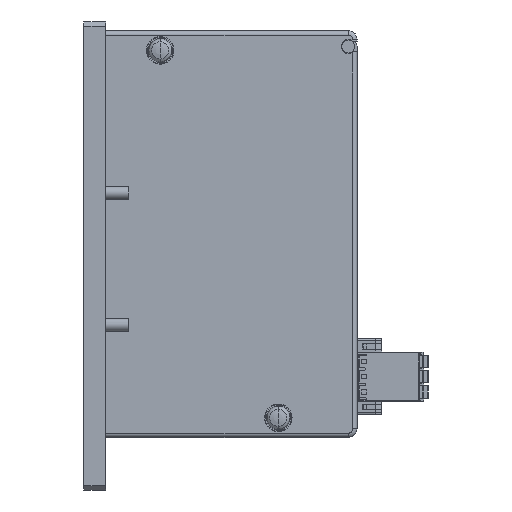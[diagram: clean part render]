
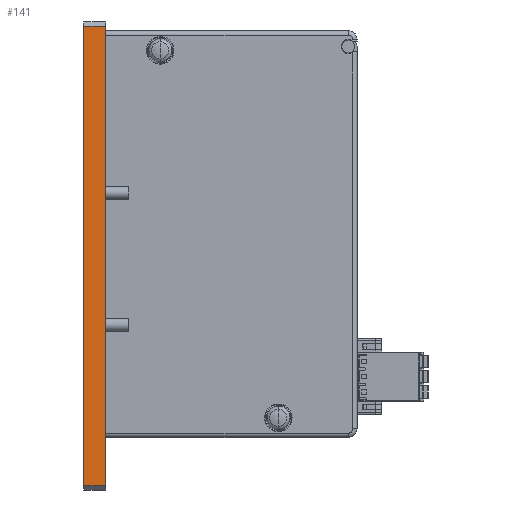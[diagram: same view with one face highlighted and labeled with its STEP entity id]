
A CAD part, left-side view. The second image highlights one B-rep face of the part: STEP entity #141.
In plain terms, the highlighted planar face has unit normal (-1, 0, 0) as drawn and (1, 0, 0) by its records, which use the part's own axes.
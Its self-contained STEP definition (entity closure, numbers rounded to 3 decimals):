
#141=ADVANCED_FACE('',(#1109),#1108,.F.);
#1108=PLANE('',#8866);
#1109=FACE_OUTER_BOUND('',#8867,.T.);
#8863=CARTESIAN_POINT('',(12.5,-5.5,-62.5));
#8864=DIRECTION('',(-1.,0.,0.));
#8865=DIRECTION('',(0.,0.,1.));
#8866=AXIS2_PLACEMENT_3D('',#8863,#8864,#8865);
#8867=EDGE_LOOP('',(#13849,#13850,#13851,#13852));
#13849=ORIENTED_EDGE('',*,*,#17716,.T.);
#13850=ORIENTED_EDGE('',*,*,#17794,.F.);
#13851=ORIENTED_EDGE('',*,*,#17754,.F.);
#13852=ORIENTED_EDGE('',*,*,#17795,.T.);
#17716=EDGE_CURVE('',#19746,#19739,#19747,.T.);
#17754=EDGE_CURVE('',#20005,#20012,#20013,.T.);
#17794=EDGE_CURVE('',#20012,#19739,#20272,.T.);
#17795=EDGE_CURVE('',#20005,#19746,#20278,.T.);
#19739=VERTEX_POINT('',#33002);
#19746=VERTEX_POINT('',#33006);
#19747=LINE('',#33007,#33008);
#20005=VERTEX_POINT('',#33162);
#20012=VERTEX_POINT('',#33166);
#20013=LINE('',#33167,#33168);
#20272=LINE('',#33314,#33315);
#20278=LINE('',#33317,#33318);
#33002=CARTESIAN_POINT('',(12.5,-5.,-52.5));
#33006=CARTESIAN_POINT('',(12.5,-5.,52.5));
#33007=CARTESIAN_POINT('',(12.5,-5.,52.5));
#33008=VECTOR('',#33009,105.);
#33009=DIRECTION('',(0.,0.,-1.));
#33162=CARTESIAN_POINT('',(12.5,0.,52.5));
#33166=CARTESIAN_POINT('',(12.5,0.,-52.5));
#33167=CARTESIAN_POINT('',(12.5,0.,52.5));
#33168=VECTOR('',#33169,105.);
#33169=DIRECTION('',(0.,0.,-1.));
#33314=CARTESIAN_POINT('',(12.5,0.,-52.5));
#33315=VECTOR('',#33316,5.);
#33316=DIRECTION('',(0.,-1.,0.));
#33317=CARTESIAN_POINT('',(12.5,0.,52.5));
#33318=VECTOR('',#33319,5.);
#33319=DIRECTION('',(0.,-1.,0.));
